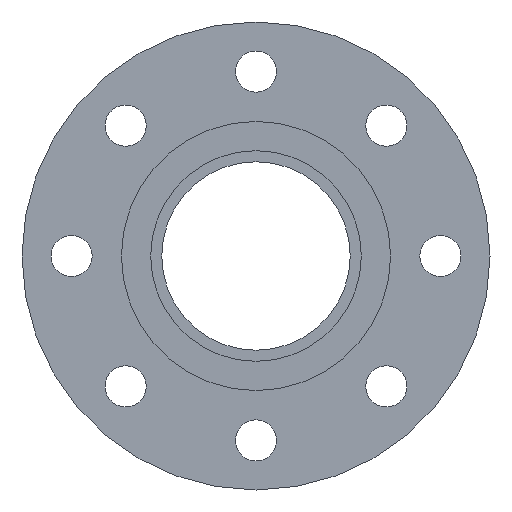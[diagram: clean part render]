
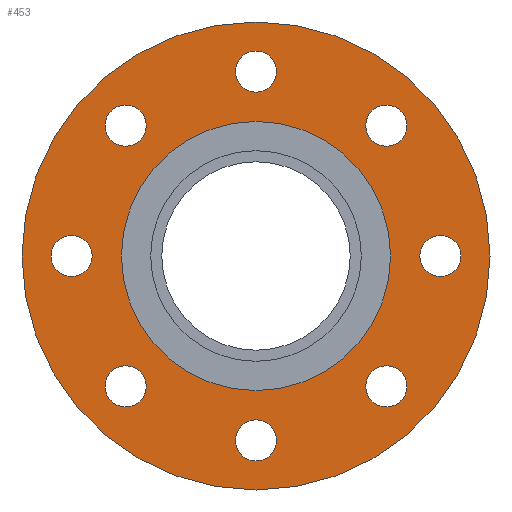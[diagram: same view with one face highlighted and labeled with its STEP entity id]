
A CAD part, left-side view. The second image highlights one B-rep face of the part: STEP entity #453.
In plain terms, the highlighted planar face has unit normal (-1, 0, 0).
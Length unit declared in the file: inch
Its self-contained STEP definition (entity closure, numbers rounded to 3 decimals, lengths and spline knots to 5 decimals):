
#14=FACE_BOUND('',#76,.T.);
#15=FACE_BOUND('',#77,.T.);
#16=FACE_BOUND('',#78,.T.);
#17=FACE_BOUND('',#79,.T.);
#18=FACE_BOUND('',#80,.T.);
#19=FACE_BOUND('',#81,.T.);
#20=FACE_BOUND('',#82,.T.);
#21=FACE_BOUND('',#83,.T.);
#22=FACE_BOUND('',#84,.T.);
#37=PLANE('',#515);
#53=FACE_OUTER_BOUND('',#75,.T.);
#75=EDGE_LOOP('',(#326,#327));
#76=EDGE_LOOP('',(#328));
#77=EDGE_LOOP('',(#329));
#78=EDGE_LOOP('',(#330));
#79=EDGE_LOOP('',(#331));
#80=EDGE_LOOP('',(#332));
#81=EDGE_LOOP('',(#333));
#82=EDGE_LOOP('',(#334));
#83=EDGE_LOOP('',(#335));
#84=EDGE_LOOP('',(#336,#337));
#142=CIRCLE('',#488,0.44);
#144=CIRCLE('',#491,0.44);
#146=CIRCLE('',#494,0.44);
#148=CIRCLE('',#497,0.44);
#150=CIRCLE('',#500,0.44);
#152=CIRCLE('',#503,0.44);
#154=CIRCLE('',#506,0.44);
#156=CIRCLE('',#509,0.44);
#157=CIRCLE('',#511,5.);
#158=CIRCLE('',#512,5.);
#161=CIRCLE('',#516,2.875);
#162=CIRCLE('',#517,2.875);
#186=VERTEX_POINT('',#705);
#188=VERTEX_POINT('',#711);
#190=VERTEX_POINT('',#717);
#192=VERTEX_POINT('',#723);
#194=VERTEX_POINT('',#729);
#196=VERTEX_POINT('',#735);
#198=VERTEX_POINT('',#741);
#200=VERTEX_POINT('',#747);
#201=VERTEX_POINT('',#751);
#202=VERTEX_POINT('',#752);
#205=VERTEX_POINT('',#761);
#206=VERTEX_POINT('',#762);
#231=EDGE_CURVE('',#186,#186,#142,.T.);
#234=EDGE_CURVE('',#188,#188,#144,.T.);
#237=EDGE_CURVE('',#190,#190,#146,.T.);
#240=EDGE_CURVE('',#192,#192,#148,.T.);
#243=EDGE_CURVE('',#194,#194,#150,.T.);
#246=EDGE_CURVE('',#196,#196,#152,.T.);
#249=EDGE_CURVE('',#198,#198,#154,.T.);
#252=EDGE_CURVE('',#200,#200,#156,.T.);
#253=EDGE_CURVE('',#201,#202,#157,.T.);
#254=EDGE_CURVE('',#202,#201,#158,.T.);
#258=EDGE_CURVE('',#205,#206,#161,.T.);
#259=EDGE_CURVE('',#206,#205,#162,.T.);
#326=ORIENTED_EDGE('',*,*,#253,.T.);
#327=ORIENTED_EDGE('',*,*,#254,.T.);
#328=ORIENTED_EDGE('',*,*,#231,.T.);
#329=ORIENTED_EDGE('',*,*,#234,.T.);
#330=ORIENTED_EDGE('',*,*,#237,.T.);
#331=ORIENTED_EDGE('',*,*,#240,.T.);
#332=ORIENTED_EDGE('',*,*,#243,.T.);
#333=ORIENTED_EDGE('',*,*,#246,.T.);
#334=ORIENTED_EDGE('',*,*,#249,.T.);
#335=ORIENTED_EDGE('',*,*,#252,.T.);
#336=ORIENTED_EDGE('',*,*,#258,.F.);
#337=ORIENTED_EDGE('',*,*,#259,.F.);
#453=ADVANCED_FACE('',(#53,#14,#15,#16,#17,#18,#19,#20,#21,#22),#37,.T.);
#488=AXIS2_PLACEMENT_3D('',#707,#559,#560);
#491=AXIS2_PLACEMENT_3D('',#713,#566,#567);
#494=AXIS2_PLACEMENT_3D('',#719,#573,#574);
#497=AXIS2_PLACEMENT_3D('',#725,#580,#581);
#500=AXIS2_PLACEMENT_3D('',#731,#587,#588);
#503=AXIS2_PLACEMENT_3D('',#737,#594,#595);
#506=AXIS2_PLACEMENT_3D('',#743,#601,#602);
#509=AXIS2_PLACEMENT_3D('',#749,#608,#609);
#511=AXIS2_PLACEMENT_3D('',#753,#612,#613);
#512=AXIS2_PLACEMENT_3D('',#754,#614,#615);
#515=AXIS2_PLACEMENT_3D('',#760,#621,#622);
#516=AXIS2_PLACEMENT_3D('',#763,#623,#624);
#517=AXIS2_PLACEMENT_3D('',#764,#625,#626);
#559=DIRECTION('center_axis',(1.,0.,0.));
#560=DIRECTION('ref_axis',(0.,-0.707,0.707));
#566=DIRECTION('center_axis',(1.,0.,0.));
#567=DIRECTION('ref_axis',(0.,-1.,0.));
#573=DIRECTION('center_axis',(1.,0.,0.));
#574=DIRECTION('ref_axis',(0.,-0.707,-0.707));
#580=DIRECTION('center_axis',(1.,0.,0.));
#581=DIRECTION('ref_axis',(0.,0.,-1.));
#587=DIRECTION('center_axis',(1.,0.,0.));
#588=DIRECTION('ref_axis',(0.,0.707,-0.707));
#594=DIRECTION('center_axis',(1.,0.,0.));
#595=DIRECTION('ref_axis',(0.,1.,0.));
#601=DIRECTION('center_axis',(1.,0.,0.));
#602=DIRECTION('ref_axis',(0.,0.707,0.707));
#608=DIRECTION('center_axis',(1.,0.,0.));
#609=DIRECTION('ref_axis',(0.,0.,1.));
#612=DIRECTION('center_axis',(-1.,0.,0.));
#613=DIRECTION('ref_axis',(0.,0.,1.));
#614=DIRECTION('center_axis',(-1.,0.,0.));
#615=DIRECTION('ref_axis',(0.,0.,1.));
#621=DIRECTION('center_axis',(-1.,0.,0.));
#622=DIRECTION('ref_axis',(0.,0.,1.));
#623=DIRECTION('center_axis',(-1.,0.,0.));
#624=DIRECTION('ref_axis',(0.,0.,1.));
#625=DIRECTION('center_axis',(-1.,0.,0.));
#626=DIRECTION('ref_axis',(0.,0.,1.));
#705=CARTESIAN_POINT('',(-1.25,3.09713,-3.09713));
#707=CARTESIAN_POINT('Origin',(-1.25,2.786,-2.786));
#711=CARTESIAN_POINT('',(-1.25,4.38,0.));
#713=CARTESIAN_POINT('Origin',(-1.25,3.94,0.));
#717=CARTESIAN_POINT('',(-1.25,3.09713,3.09713));
#719=CARTESIAN_POINT('Origin',(-1.25,2.786,2.786));
#723=CARTESIAN_POINT('',(-1.25,0.,4.38));
#725=CARTESIAN_POINT('Origin',(-1.25,0.,3.94));
#729=CARTESIAN_POINT('',(-1.25,-3.09713,3.09713));
#731=CARTESIAN_POINT('Origin',(-1.25,-2.786,2.786));
#735=CARTESIAN_POINT('',(-1.25,-4.38,0.));
#737=CARTESIAN_POINT('Origin',(-1.25,-3.94,0.));
#741=CARTESIAN_POINT('',(-1.25,-3.09713,-3.09713));
#743=CARTESIAN_POINT('Origin',(-1.25,-2.786,-2.786));
#747=CARTESIAN_POINT('',(-1.25,0.,-4.38));
#749=CARTESIAN_POINT('Origin',(-1.25,0.,-3.94));
#751=CARTESIAN_POINT('',(-1.25,0.,5.));
#752=CARTESIAN_POINT('',(-1.25,0.,-5.));
#753=CARTESIAN_POINT('Origin',(-1.25,0.,0.));
#754=CARTESIAN_POINT('Origin',(-1.25,0.,0.));
#760=CARTESIAN_POINT('Origin',(-1.25,0.,3.9375));
#761=CARTESIAN_POINT('',(-1.25,0.,2.875));
#762=CARTESIAN_POINT('',(-1.25,0.,-2.875));
#763=CARTESIAN_POINT('Origin',(-1.25,0.,0.));
#764=CARTESIAN_POINT('Origin',(-1.25,0.,0.));
